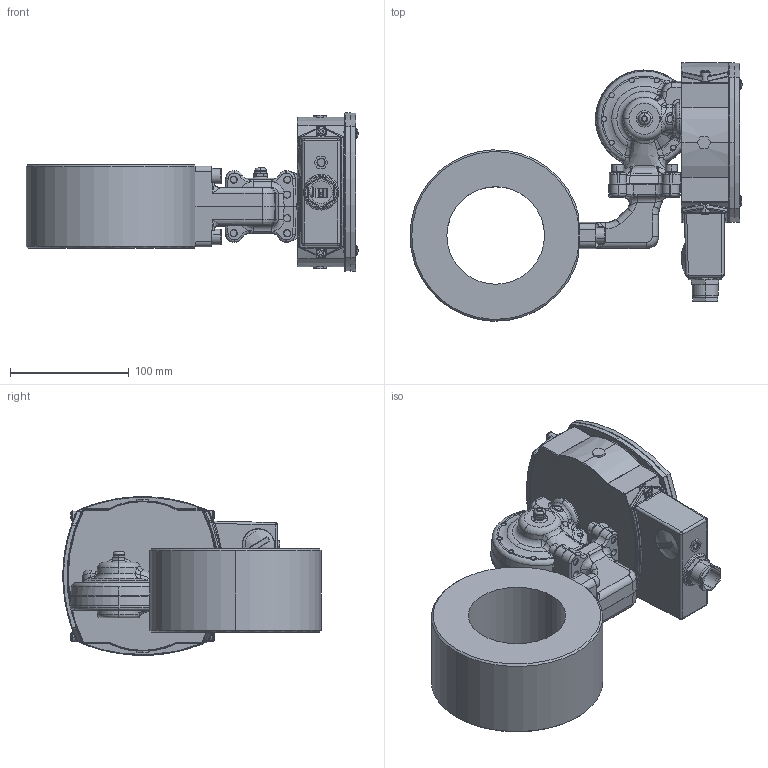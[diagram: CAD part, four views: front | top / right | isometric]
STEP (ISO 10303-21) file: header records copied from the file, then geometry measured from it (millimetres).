
FILE_DESCRIPTION (( 'STEP AP214' ), '1' );
FILE_NAME ('S FA80.STEP', '2016-09-21T07:12:18', ( 'User' ), ( 'HP' ), 'SwSTEP 2.0', 'SolidWorks 2016', '' );
FILE_SCHEMA (( 'AUTOMOTIVE_DESIGN' ));
Length unit declared in the file: millimetre
Products named in the file (35): ID_10; membranhus br; ID_1_4_4; M5 membranskruvar_1; ID_1_4_3; skruv_membranhus_1; ID_1_1_2; fj_X_E4derbricka till membranhus BR_1; ID_9; MC6S M6x22_1; ID_1_4_2; Lock kontrollerad HMAB ELETTA 20160908_1; ID_7_2; ID_6_1; Membranhus kontrollerad HMAB ELETTA 20160908_1; ID_5_2; ID_4_3; S2_25_internal_2_1; ID_3_3; kupolmutter_1; ID_2_4; m_X_E4ssingsmembran_1; ID_1_4; S hus; ID_1_4_8; S FA80; ID_14; ID_13; FA80 anslutningsror; ID_12; fa hals; ID_1_1; ID_2_2; ID_1_4_5; ID_1_2
Assembly tree (54 placements, depth 5):
  S FA80
    S hus
      ID_1_1
        ID_1_4
        ID_2_4
        ID_3_3
        ID_4_3
        ID_5_2
        ID_6_1  x4
        ID_7_2  x4
        ID_1_4_2
        ID_1_1_2
          ID_9  x2
        ID_1_4_3
        ID_1_4_4
        ID_10
        ID_1_4_5
      ID_12  x2
      ID_13
      ID_14
      ID_1_4_8
    membranhus br
      S2_25_internal_2_1
        m_X_E4ssingsmembran_1
        kupolmutter_1
      Membranhus kontrollerad HMAB ELETTA 20160908_1
      Lock kontrollerad HMAB ELETTA 20160908_1
      MC6S M6x22_1  x4
      M5 membranskruvar_1  x9
        fj_X_E4derbricka till membranhus BR_1
        skruv_membranhus_1
    fa hals
      ID_1_2
      ID_2_2  x2
    FA80 anslutningsror
Bounding box: 279 x 217.17 x 133.42 mm (x, y, z)
Volume: 1257000.9 mm3; surface area: 320025.2 mm2
Topology: 56 solids, 56 shells, 2414 faces, 5933 edges, 3681 vertices
Faces by surface type: plane 862, cylinder 687, bspline 585, cone 206, torus 67, sphere 7
Entity records: 101024 total; most frequent: CARTESIAN_POINT 58766, ORIENTED_EDGE 9332, DIRECTION 7179, EDGE_CURVE 4666, VERTEX_POINT 2914, AXIS2_PLACEMENT_3D 2677, EDGE_LOOP 2106, FACE_OUTER_BOUND 1891
